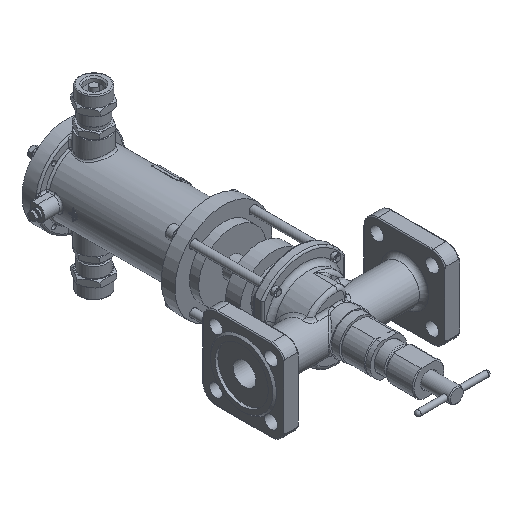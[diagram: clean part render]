
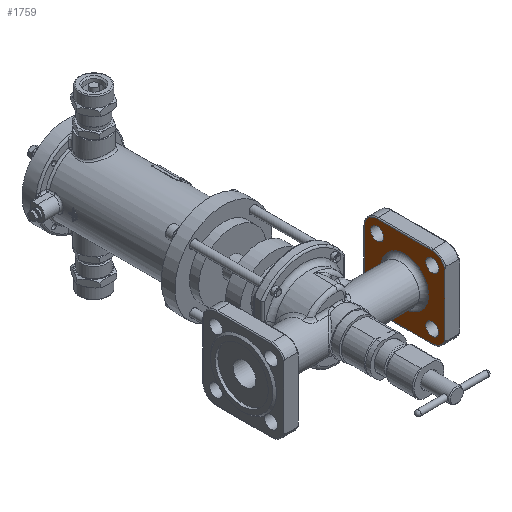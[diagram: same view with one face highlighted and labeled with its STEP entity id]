
A CAD part, isometric view. The second image highlights one B-rep face of the part: STEP entity #1759.
In plain terms, the highlighted planar face has unit normal (-1, 0, 0).
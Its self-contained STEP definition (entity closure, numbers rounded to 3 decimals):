
#1759=ADVANCED_FACE('',(#19400,#19402,#19404,#19406,#19408,#19410),#19412,.T.);
#19400=FACE_BOUND('',#19401,.T.);
#19401=EDGE_LOOP('',(#30564));
#19402=FACE_BOUND('',#19403,.T.);
#19403=EDGE_LOOP('',(#30565));
#19404=FACE_BOUND('',#19405,.T.);
#19405=EDGE_LOOP('',(#30566));
#19406=FACE_BOUND('',#19407,.T.);
#19407=EDGE_LOOP('',(#30567));
#19408=FACE_BOUND('',#19409,.T.);
#19409=EDGE_LOOP('',(#30568));
#19410=FACE_OUTER_BOUND('',#19411,.T.);
#19411=EDGE_LOOP('',(#30569,#30570,#30571,#30572,#30573,#30574,#30575,#30576));
#19412=PLANE('',#19413);
#19413=AXIS2_PLACEMENT_3D('',#19414,#19415,#19416);
#19414=CARTESIAN_POINT('',(80.,0.,0.));
#19415=DIRECTION('',(-1.,0.,0.));
#19416=DIRECTION('',(0.,1.,0.));
#30564=ORIENTED_EDGE('',*,*,#38051,.F.);
#30565=ORIENTED_EDGE('',*,*,#38105,.T.);
#30566=ORIENTED_EDGE('',*,*,#38106,.T.);
#30567=ORIENTED_EDGE('',*,*,#38107,.T.);
#30568=ORIENTED_EDGE('',*,*,#38108,.T.);
#30569=ORIENTED_EDGE('',*,*,#38109,.T.);
#30570=ORIENTED_EDGE('',*,*,#38110,.T.);
#30571=ORIENTED_EDGE('',*,*,#38111,.T.);
#30572=ORIENTED_EDGE('',*,*,#38112,.T.);
#30573=ORIENTED_EDGE('',*,*,#38113,.T.);
#30574=ORIENTED_EDGE('',*,*,#38114,.T.);
#30575=ORIENTED_EDGE('',*,*,#38115,.T.);
#30576=ORIENTED_EDGE('',*,*,#38116,.T.);
#38051=EDGE_CURVE('',#45912,#45912,#45914,.T.);
#38105=EDGE_CURVE('',#45987,#45987,#45988,.T.);
#38106=EDGE_CURVE('',#45989,#45989,#45990,.T.);
#38107=EDGE_CURVE('',#45991,#45991,#45992,.T.);
#38108=EDGE_CURVE('',#45993,#45993,#45994,.T.);
#38109=EDGE_CURVE('',#45995,#45996,#45997,.F.);
#38110=EDGE_CURVE('',#45996,#45998,#45999,.F.);
#38111=EDGE_CURVE('',#45998,#46000,#46001,.T.);
#38112=EDGE_CURVE('',#46000,#46002,#46003,.F.);
#38113=EDGE_CURVE('',#46002,#46004,#46005,.T.);
#38114=EDGE_CURVE('',#46004,#46006,#46007,.F.);
#38115=EDGE_CURVE('',#46006,#46008,#46009,.T.);
#38116=EDGE_CURVE('',#46008,#45995,#46010,.F.);
#45912=VERTEX_POINT('',#71938);
#45914=CIRCLE('',#71943,26.);
#45987=VERTEX_POINT('',#72489);
#45988=CIRCLE('',#72490,7.);
#45989=VERTEX_POINT('',#72494);
#45990=CIRCLE('',#72495,7.);
#45991=VERTEX_POINT('',#72499);
#45992=CIRCLE('',#72500,7.);
#45993=VERTEX_POINT('',#72504);
#45994=CIRCLE('',#72505,7.);
#45995=VERTEX_POINT('',#72509);
#45996=VERTEX_POINT('',#72510);
#45997=LINE('',#72511,#72512);
#45998=VERTEX_POINT('',#72514);
#45999=CIRCLE('',#72515,14.);
#46000=VERTEX_POINT('',#72519);
#46001=LINE('',#72520,#72521);
#46002=VERTEX_POINT('',#72523);
#46003=CIRCLE('',#72524,14.);
#46004=VERTEX_POINT('',#72528);
#46005=LINE('',#72529,#72530);
#46006=VERTEX_POINT('',#72532);
#46007=CIRCLE('',#72533,14.);
#46008=VERTEX_POINT('',#72537);
#46009=LINE('',#72538,#72539);
#46010=CIRCLE('',#72541,14.);
#71938=CARTESIAN_POINT('',(80.,26.,0.));
#71943=AXIS2_PLACEMENT_3D('',#71944,#71945,#71946);
#71944=CARTESIAN_POINT('',(80.,0.,0.));
#71945=DIRECTION('',(-1.,0.,0.));
#71946=DIRECTION('',(0.,1.,0.));
#72489=CARTESIAN_POINT('',(80.,30.052,37.052));
#72490=AXIS2_PLACEMENT_3D('',#72491,#72492,#72493);
#72491=CARTESIAN_POINT('',(80.,30.052,30.052));
#72492=DIRECTION('',(1.,0.,0.));
#72493=DIRECTION('',(0.,0.,1.));
#72494=CARTESIAN_POINT('',(80.,-30.052,37.052));
#72495=AXIS2_PLACEMENT_3D('',#72496,#72497,#72498);
#72496=CARTESIAN_POINT('',(80.,-30.052,30.052));
#72497=DIRECTION('',(1.,0.,0.));
#72498=DIRECTION('',(0.,0.,1.));
#72499=CARTESIAN_POINT('',(80.,-30.052,-23.052));
#72500=AXIS2_PLACEMENT_3D('',#72501,#72502,#72503);
#72501=CARTESIAN_POINT('',(80.,-30.052,-30.052));
#72502=DIRECTION('',(1.,0.,0.));
#72503=DIRECTION('',(0.,0.,1.));
#72504=CARTESIAN_POINT('',(80.,30.052,-23.052));
#72505=AXIS2_PLACEMENT_3D('',#72506,#72507,#72508);
#72506=CARTESIAN_POINT('',(80.,30.052,-30.052));
#72507=DIRECTION('',(1.,0.,0.));
#72508=DIRECTION('',(0.,0.,1.));
#72509=CARTESIAN_POINT('',(80.,-44.,-30.));
#72510=CARTESIAN_POINT('',(80.,-44.,30.));
#72511=CARTESIAN_POINT('',(80.,-44.,30.));
#72512=VECTOR('',#72513,1.);
#72513=DIRECTION('',(0.,0.,-1.));
#72514=CARTESIAN_POINT('',(80.,-30.,44.));
#72515=AXIS2_PLACEMENT_3D('',#72516,#72517,#72518);
#72516=CARTESIAN_POINT('',(80.,-30.,30.));
#72517=DIRECTION('',(1.,0.,0.));
#72518=DIRECTION('',(0.,0.,1.));
#72519=CARTESIAN_POINT('',(80.,30.,44.));
#72520=CARTESIAN_POINT('',(80.,-30.,44.));
#72521=VECTOR('',#72522,1.);
#72522=DIRECTION('',(0.,1.,0.));
#72523=CARTESIAN_POINT('',(80.,44.,30.));
#72524=AXIS2_PLACEMENT_3D('',#72525,#72526,#72527);
#72525=CARTESIAN_POINT('',(80.,30.,30.));
#72526=DIRECTION('',(1.,0.,0.));
#72527=DIRECTION('',(0.,1.,0.));
#72528=CARTESIAN_POINT('',(80.,44.,-30.));
#72529=CARTESIAN_POINT('',(80.,44.,30.));
#72530=VECTOR('',#72531,1.);
#72531=DIRECTION('',(0.,0.,-1.));
#72532=CARTESIAN_POINT('',(80.,30.,-44.));
#72533=AXIS2_PLACEMENT_3D('',#72534,#72535,#72536);
#72534=CARTESIAN_POINT('',(80.,30.,-30.));
#72535=DIRECTION('',(1.,0.,0.));
#72536=DIRECTION('',(0.,0.,-1.));
#72537=CARTESIAN_POINT('',(80.,-30.,-44.));
#72538=CARTESIAN_POINT('',(80.,30.,-44.));
#72539=VECTOR('',#72540,1.);
#72540=DIRECTION('',(0.,-1.,0.));
#72541=AXIS2_PLACEMENT_3D('',#72542,#72543,#72544);
#72542=CARTESIAN_POINT('',(80.,-30.,-30.));
#72543=DIRECTION('',(1.,0.,0.));
#72544=DIRECTION('',(0.,-1.,0.));
